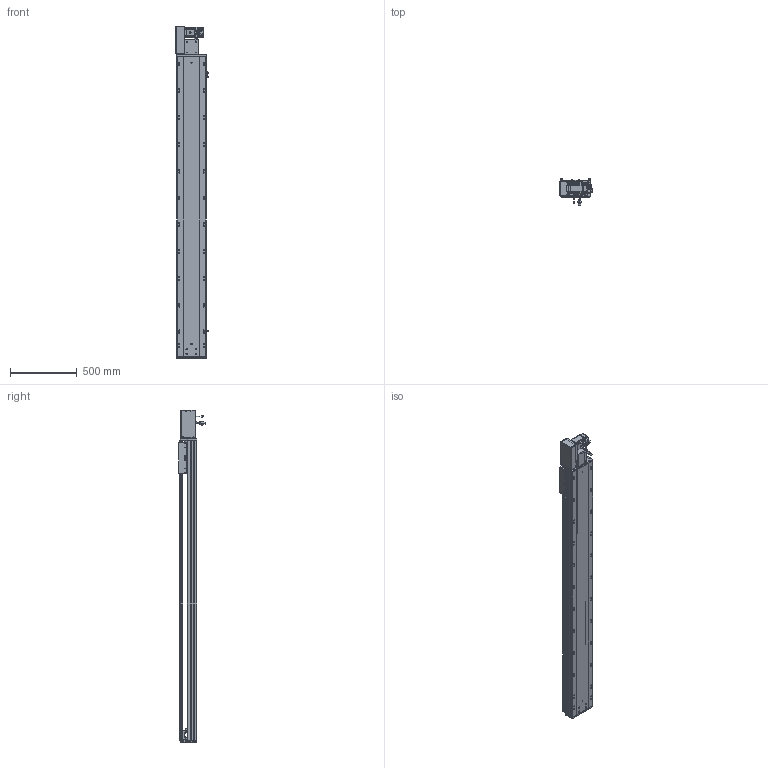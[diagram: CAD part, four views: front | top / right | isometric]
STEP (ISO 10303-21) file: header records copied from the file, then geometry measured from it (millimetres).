
FILE_DESCRIPTION (( 'STEP AP203' ), '1' );
FILE_NAME ('RY220-T-300-LK.SLDASM_1900.step', '2022-07-25T08:15:05', ( '' ), ( '' ), 'SwSTEP 2.0', 'SolidWorks 2016', '' );
FILE_SCHEMA (( 'CONFIG_CONTROL_DESIGN' ));
Length unit declared in the file: millimetre
Products named in the file (14): RY220-T-蛌殏萇儂假蚾啣(750W); RY220翋肮祭謫裔啣; RY220-同步轮副支撑座6304×2; RY220-T菁釱-300_1900; RY220-T-300-奻裔啣_1900; RY220圉猾敕々湍臏賑輸; RY220-T-湍謫欶(鍼踢); 覜茼ん672; RY220-T-300-LK.SLDASM_1900; 滅袉蝶18-15; RY220-俋离672覜茼んえ; 110A-T-肮祭謫釱傷裔; RY220翋肮祭謫釱; 怢湛750W_ECMA-CX0807ES
Assembly tree (18 placements, depth 2):
  RY220-T-300-LK.SLDASM_1900
    RY220-T菁釱-300_1900
    RY220翋肮祭謫釱
    覜茼ん672  x3
    RY220圉猾敕々湍臏賑輸
    RY220-T-300-奻裔啣_1900
    RY220-俋离672覜茼んえ
    滅袉蝶18-15  x3
    RY220翋肮祭謫裔啣  x2
    110A-T-肮祭謫釱傷裔
    怢湛750W_ECMA-CX0807ES
    RY220-T-湍謫欶(鍼踢)
    RY220-T-蛌殏萇儂假蚾啣(750W)
    RY220-同步轮副支撑座6304×2
Bounding box: 239.7 x 198.77 x 2479 mm (x, y, z)
Volume: 18082878 mm3; surface area: 5479254.7 mm2
Topology: 19 solids, 19 shells, 2814 faces, 7775 edges, 4900 vertices
Faces by surface type: cylinder 1354, plane 1069, cone 309, bspline 56, sphere 16, torus 10
Entity records: 93747 total; most frequent: CARTESIAN_POINT 26593, ORIENTED_EDGE 13914, DIRECTION 13296, EDGE_CURVE 6957, AXIS2_PLACEMENT_3D 4752, VERTEX_POINT 4524, LINE 3792, VECTOR 3792
